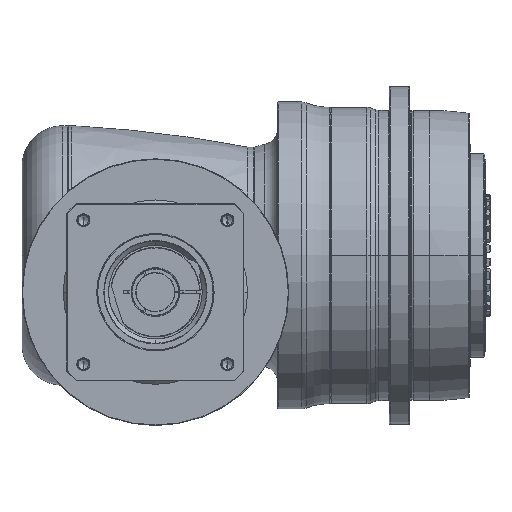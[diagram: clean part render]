
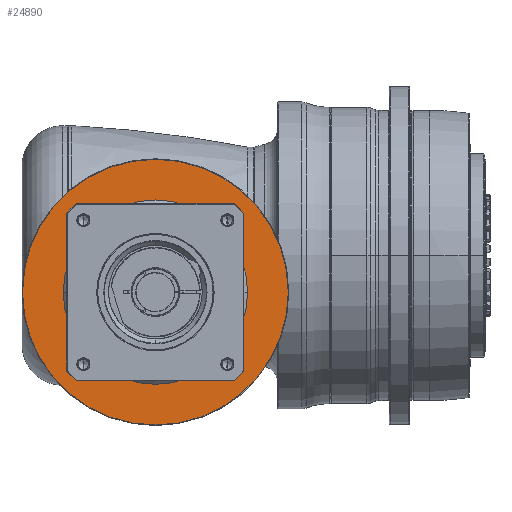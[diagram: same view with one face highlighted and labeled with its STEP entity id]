
A CAD part, front view. The second image highlights one B-rep face of the part: STEP entity #24890.
In plain terms, the highlighted planar face has unit normal (0, -1, 0) as drawn and (1, 0, 0) by its records, which use the part's own axes.
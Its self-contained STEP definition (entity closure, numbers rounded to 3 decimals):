
#24417=CARTESIAN_POINT('',(-3.5,0.,
0.));
#24418=DIRECTION('',(-1.,0.,0.));
#24419=DIRECTION('',(0.,1.,0.));
#24420=AXIS2_PLACEMENT_3D('',#24417,#24418,#24419);
#24422=CARTESIAN_POINT('',(-3.5,0.,
0.));
#24423=DIRECTION('',(-1.,0.,0.));
#24424=DIRECTION('',(0.,-1.,0.));
#24425=AXIS2_PLACEMENT_3D('',#24422,#24423,#24424);
#24427=CARTESIAN_POINT('',(-3.5,0.,0.));
#24428=DIRECTION('',(-1.,0.,0.));
#24429=DIRECTION('',(0.,-1.,0.));
#24430=AXIS2_PLACEMENT_3D('',#24427,#24428,#24429);
#24432=CARTESIAN_POINT('',(-3.5,0.,0.));
#24433=DIRECTION('',(-1.,0.,0.));
#24434=DIRECTION('',(0.,1.,0.));
#24435=AXIS2_PLACEMENT_3D('',#24432,#24433,#24434);
#24461=CARTESIAN_POINT('',(-3.5,-130.5,0.));
#24462=CARTESIAN_POINT('',(-3.5,130.5,0.));
#24463=VERTEX_POINT('',#24461);
#24464=VERTEX_POINT('',#24462);
#24509=CARTESIAN_POINT('',(-3.5,90.5,
0.));
#24510=CARTESIAN_POINT('',(-3.5,-90.5,
0.));
#24511=VERTEX_POINT('',#24509);
#24512=VERTEX_POINT('',#24510);
#24875=CARTESIAN_POINT('',(-3.5,0.,0.));
#24876=DIRECTION('',(1.,0.,0.));
#24877=DIRECTION('',(0.,-1.,0.));
#24878=AXIS2_PLACEMENT_3D('',#24875,#24876,#24877);
#24879=PLANE('',#24878);
#24880=ORIENTED_EDGE('',*,*,#24816,.T.);
#24881=ORIENTED_EDGE('',*,*,#24831,.T.);
#24882=EDGE_LOOP('',(#24880,#24881));
#24883=FACE_OUTER_BOUND('',#24882,.F.);
#24885=ORIENTED_EDGE('',*,*,#24884,.F.);
#24887=ORIENTED_EDGE('',*,*,#24886,.F.);
#24888=EDGE_LOOP('',(#24885,#24887));
#24889=FACE_BOUND('',#24888,.F.);
#24890=ADVANCED_FACE('',(#24883,#24889),#24879,.T.);
#24421=CIRCLE('',#24420,90.5);
#24426=CIRCLE('',#24425,90.5);
#24431=CIRCLE('',#24430,130.5);
#24436=CIRCLE('',#24435,130.5);
#24816=EDGE_CURVE('',#24463,#24464,#24431,.T.);
#24831=EDGE_CURVE('',#24464,#24463,#24436,.T.);
#24884=EDGE_CURVE('',#24511,#24512,#24421,.T.);
#24886=EDGE_CURVE('',#24512,#24511,#24426,.T.);
